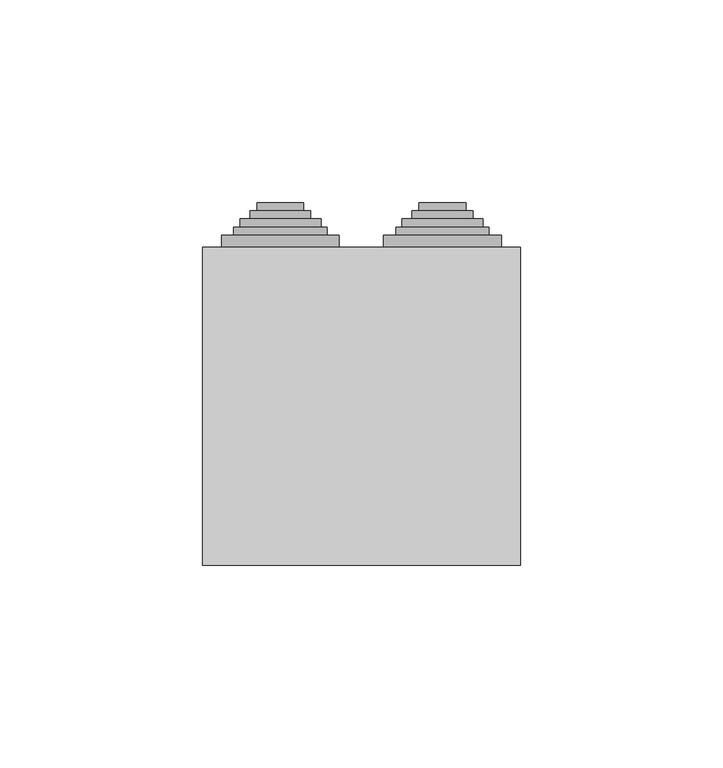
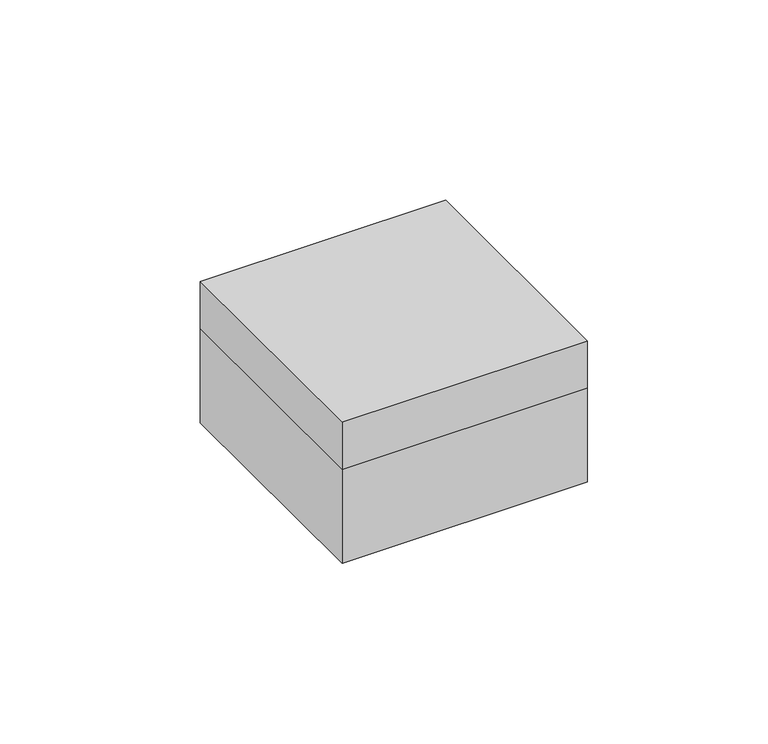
"""IFC4 building model written with IfcOpenShell, lengths in millimetres: cable carrier fitting geometry, КНС_КоробкаОтветвительнаяСКабельнымиВводами_8+2_IP55_DKC : с 8+2 кабельными вводами д.25/20 мм, IP55,100х100х50 мм."""

from ifc_helpers import new_model, si_unit, frame, origin, place, context, project, spatial, polyline, circle_curve, faceted_brep, source, transform, mapped, element, save
from ifc_brep_helpers import plane_surface, cylinder_surface, revolved_surface, advanced_brep


def cable_carrier_fitting_e5c09203(model_context):
    return source(origin(), model_context, "Body", "SolidModel", [
        advanced_brep(
        [(8.5, 37.2, 15.9), (31.5, 37.2, 15.9), (34.5, 37.2, 15.9), (5.5, 37.2, 15.9), (8.5, 39.2, 15.9), (31.5, 39.2, 15.9), (5.5, 39.2, 15.9), (34.5, 39.2, 15.9), (5.5, 42.2, 15.9), (34.5, 42.2, 15.9), (8.5, 42.2, 15.9), (31.5, 42.2, 15.9), (8.5, 44.2, 15.9), (31.5, 44.2, 15.9), (10.0, 44.2, 15.9), (30.0, 44.2, 15.9), (10.0, 46.2, 15.9), (30.0, 46.2, 15.9), (12.5, 46.2, 15.9), (27.5, 46.2, 15.9), (12.5, 48.2, 15.9), (27.5, 48.2, 15.9), (14.25, 48.2, 15.9), (25.75, 48.2, 15.9), (14.25, 50.2, 15.9), (25.75, 50.2, 15.9), (20.0, 50.2, 15.9), (8.5, 34.2, 15.9), (31.5, 34.2, 15.9), (20.0, 34.2, 15.9), (5.5, 34.9491137, 15.9), (34.5, 34.9491137, 15.9)],
        [
            (0, 1, circle_curve(frame((20.0, 37.2, 15.9), z_axis=(0.0, -1.0, 0.0), x_axis=(1.0, 0.0, 0.0)), 11.5)),
            (1, 2),
            (2, 3, circle_curve(frame((20.0, 37.2, 15.9), z_axis=(0.0, 1.0, 0.0), x_axis=(1.0, 0.0, 0.0)), 14.5)),
            (3, 0),
            (1, 0, circle_curve(frame((20.0, 37.2, 15.9), z_axis=(0.0, -1.0, 0.0), x_axis=(1.0, 0.0, 0.0)), 11.5)),
            (3, 2, circle_curve(frame((20.0, 37.2, 15.9), z_axis=(0.0, 1.0, 0.0), x_axis=(1.0, 0.0, 0.0)), 14.5)),
            (4, 5, circle_curve(frame((20.0, 39.2, 15.9), z_axis=(0.0, -1.0, 0.0), x_axis=(1.0, 0.0, 0.0)), 11.5)),
            (5, 1),
            (0, 4),
            (5, 4, circle_curve(frame((20.0, 39.2, 15.9), z_axis=(0.0, -1.0, 0.0), x_axis=(1.0, 0.0, 0.0)), 11.5)),
            (6, 7, circle_curve(frame((20.0, 39.2, 15.9), z_axis=(0.0, -1.0, 0.0), x_axis=(1.0, 0.0, 0.0)), 14.5)),
            (7, 5),
            (4, 6),
            (7, 6, circle_curve(frame((20.0, 39.2, 15.9), z_axis=(0.0, -1.0, 0.0), x_axis=(1.0, 0.0, 0.0)), 14.5)),
            (8, 9, circle_curve(frame((20.0, 42.2, 15.9), z_axis=(0.0, -1.0, 0.0), x_axis=(1.0, 0.0, 0.0)), 14.5)),
            (9, 7),
            (6, 8),
            (9, 8, circle_curve(frame((20.0, 42.2, 15.9), z_axis=(0.0, -1.0, 0.0), x_axis=(1.0, 0.0, 0.0)), 14.5)),
            (10, 11, circle_curve(frame((20.0, 42.2, 15.9), z_axis=(0.0, -1.0, 0.0), x_axis=(1.0, 0.0, 0.0)), 11.5)),
            (11, 9),
            (8, 10),
            (11, 10, circle_curve(frame((20.0, 42.2, 15.9), z_axis=(0.0, -1.0, 0.0), x_axis=(1.0, 0.0, 0.0)), 11.5)),
            (12, 13, circle_curve(frame((20.0, 44.2, 15.9), z_axis=(0.0, -1.0, 0.0), x_axis=(1.0, 0.0, 0.0)), 11.5)),
            (13, 11),
            (10, 12),
            (13, 12, circle_curve(frame((20.0, 44.2, 15.9), z_axis=(0.0, -1.0, 0.0), x_axis=(1.0, 0.0, 0.0)), 11.5)),
            (14, 15, circle_curve(frame((20.0, 44.2, 15.9), z_axis=(0.0, -1.0, 0.0), x_axis=(1.0, 0.0, 0.0)), 10.0)),
            (15, 13),
            (12, 14),
            (15, 14, circle_curve(frame((20.0, 44.2, 15.9), z_axis=(0.0, -1.0, 0.0), x_axis=(1.0, 0.0, 0.0)), 10.0)),
            (16, 17, circle_curve(frame((20.0, 46.2, 15.9), z_axis=(0.0, -1.0, 0.0), x_axis=(1.0, 0.0, 0.0)), 10.0)),
            (17, 15),
            (14, 16),
            (17, 16, circle_curve(frame((20.0, 46.2, 15.9), z_axis=(0.0, -1.0, 0.0), x_axis=(1.0, 0.0, 0.0)), 10.0)),
            (18, 19, circle_curve(frame((20.0, 46.2, 15.9), z_axis=(0.0, -1.0, 0.0), x_axis=(1.0, 0.0, 0.0)), 7.5)),
            (19, 17),
            (16, 18),
            (19, 18, circle_curve(frame((20.0, 46.2, 15.9), z_axis=(0.0, -1.0, 0.0), x_axis=(1.0, 0.0, 0.0)), 7.5)),
            (20, 21, circle_curve(frame((20.0, 48.2, 15.9), z_axis=(0.0, -1.0, 0.0), x_axis=(1.0, 0.0, 0.0)), 7.5)),
            (21, 19),
            (18, 20),
            (21, 20, circle_curve(frame((20.0, 48.2, 15.9), z_axis=(0.0, -1.0, 0.0), x_axis=(1.0, 0.0, 0.0)), 7.5)),
            (22, 23, circle_curve(frame((20.0, 48.2, 15.9), z_axis=(0.0, -1.0, 0.0), x_axis=(1.0, 0.0, 0.0)), 5.75)),
            (23, 21),
            (20, 22),
            (23, 22, circle_curve(frame((20.0, 48.2, 15.9), z_axis=(0.0, -1.0, 0.0), x_axis=(1.0, 0.0, 0.0)), 5.75)),
            (24, 25, circle_curve(frame((20.0, 50.2, 15.9), z_axis=(0.0, -1.0, 0.0), x_axis=(1.0, 0.0, 0.0)), 5.75)),
            (25, 23),
            (22, 24),
            (25, 24, circle_curve(frame((20.0, 50.2, 15.9), z_axis=(0.0, -1.0, 0.0), x_axis=(1.0, 0.0, 0.0)), 5.75)),
            (26, 25),
            (24, 26),
            (27, 28, circle_curve(frame((20.0, 34.2, 15.9), z_axis=(0.0, -1.0, 0.0), x_axis=(1.0, 0.0, 0.0)), 11.5)),
            (28, 29),
            (29, 27),
            (28, 27, circle_curve(frame((20.0, 34.2, 15.9), z_axis=(0.0, -1.0, 0.0), x_axis=(1.0, 0.0, 0.0)), 11.5)),
            (30, 31, circle_curve(frame((20.0, 34.9491137, 15.9), z_axis=(0.0, -1.0, 0.0), x_axis=(1.0, 0.0, 0.0)), 14.5)),
            (31, 28),
            (27, 30),
            (31, 30, circle_curve(frame((20.0, 34.9491137, 15.9), z_axis=(0.0, -1.0, 0.0), x_axis=(1.0, 0.0, 0.0)), 14.5)),
            (2, 31),
            (30, 3),
        ],
        [
            plane_surface(frame((20.0, 37.2, 15.9), z_axis=(0.0, 1.0, 0.0), x_axis=(1.0, 0.0, 0.0))),
            cylinder_surface(frame((20.0, -1475.8, 15.9), z_axis=(0.0, 1.0, 0.0), x_axis=(1.0, 0.0, 0.0)), 11.5),
            plane_surface(frame((20.0, 39.2, 15.9), z_axis=(0.0, -1.0, 0.0), x_axis=(1.0, 0.0, 0.0))),
            cylinder_surface(frame((20.0, -1475.8, 15.9), z_axis=(0.0, 1.0, 0.0), x_axis=(1.0, 0.0, 0.0)), 14.5),
            plane_surface(frame((20.0, 42.2, 15.9), z_axis=(0.0, 1.0, 0.0), x_axis=(1.0, 0.0, 0.0))),
            plane_surface(frame((20.0, 44.2, 15.9), z_axis=(0.0, 1.0, 0.0), x_axis=(1.0, 0.0, 0.0))),
            cylinder_surface(frame((20.0, -1475.8, 15.9), z_axis=(0.0, 1.0, 0.0), x_axis=(1.0, 0.0, 0.0)), 10.0),
            plane_surface(frame((20.0, 46.2, 15.9), z_axis=(0.0, 1.0, 0.0), x_axis=(1.0, 0.0, 0.0))),
            cylinder_surface(frame((20.0, -1475.8, 15.9), z_axis=(0.0, 1.0, 0.0), x_axis=(1.0, 0.0, 0.0)), 7.5),
            plane_surface(frame((20.0, 48.2, 15.9), z_axis=(0.0, 1.0, 0.0), x_axis=(1.0, 0.0, 0.0))),
            cylinder_surface(frame((20.0, -1475.8, 15.9), z_axis=(0.0, 1.0, 0.0), x_axis=(1.0, 0.0, 0.0)), 5.75),
            plane_surface(frame((20.0, 50.2, 15.9), z_axis=(0.0, 1.0, 0.0), x_axis=(1.0, 0.0, 0.0))),
            plane_surface(frame((20.0, 34.2, 15.9), z_axis=(0.0, -1.0, 0.0), x_axis=(1.0, 0.0, 0.0))),
            revolved_surface(polyline([(31.5, 34.2, 15.9), (34.5, 34.9491137, 15.9)]), (20.0, -1475.8, 15.9), (0.0, 1.0, 0.0)),
        ],
        [
            (0, [[1, 2, 3, 4]]),
            (0, [[5, -4, 6, -2]]),
            (1, [[7, 8, -1, 9]]),
            (1, [[10, -9, -5, -8]]),
            (2, [[11, 12, -7, 13]]),
            (2, [[14, -13, -10, -12]]),
            (3, [[15, 16, -11, 17]]),
            (3, [[18, -17, -14, -16]]),
            (4, [[19, 20, -15, 21]]),
            (4, [[22, -21, -18, -20]]),
            (1, [[23, 24, -19, 25]]),
            (1, [[26, -25, -22, -24]]),
            (5, [[27, 28, -23, 29]]),
            (5, [[30, -29, -26, -28]]),
            (6, [[31, 32, -27, 33]]),
            (6, [[34, -33, -30, -32]]),
            (7, [[35, 36, -31, 37]]),
            (7, [[38, -37, -34, -36]]),
            (8, [[39, 40, -35, 41]]),
            (8, [[42, -41, -38, -40]]),
            (9, [[43, 44, -39, 45]]),
            (9, [[46, -45, -42, -44]]),
            (10, [[47, 48, -43, 49]]),
            (10, [[50, -49, -46, -48]]),
            (11, [[51, -47, 52]]),
            (11, [[-52, -50, -51]]),
            (12, [[53, 54, 55]]),
            (12, [[56, -55, -54]]),
            (13, [[57, 58, -53, 59]]),
            (13, [[60, -59, -56, -58]]),
            (3, [[-3, 61, -57, 62]]),
            (3, [[-6, -62, -60, -61]]),
        ],
    ),
        advanced_brep(
        [(-31.5, 37.2, 15.9), (-8.5, 37.2, 15.9), (-5.5, 37.2, 15.9), (-34.5, 37.2, 15.9), (-31.5, 39.2, 15.9), (-8.5, 39.2, 15.9), (-34.5, 39.2, 15.9), (-5.5, 39.2, 15.9), (-34.5, 42.2, 15.9), (-5.5, 42.2, 15.9), (-31.5, 42.2, 15.9), (-8.5, 42.2, 15.9), (-31.5, 44.2, 15.9), (-8.5, 44.2, 15.9), (-30.0, 44.2, 15.9), (-10.0, 44.2, 15.9), (-30.0, 46.2, 15.9), (-10.0, 46.2, 15.9), (-27.5, 46.2, 15.9), (-12.5, 46.2, 15.9), (-27.5, 48.2, 15.9), (-12.5, 48.2, 15.9), (-25.75, 48.2, 15.9), (-14.25, 48.2, 15.9), (-25.75, 50.2, 15.9), (-14.25, 50.2, 15.9), (-20.0, 50.2, 15.9), (-31.5, 34.2, 15.9), (-8.5, 34.2, 15.9), (-20.0, 34.2, 15.9), (-34.5, 34.9491137, 15.9), (-5.5, 34.9491137, 15.9)],
        [
            (0, 1, circle_curve(frame((-20.0, 37.2, 15.9), z_axis=(0.0, -1.0, 0.0), x_axis=(1.0000000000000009, 0.0, 0.0)), 11.5)),
            (1, 2),
            (2, 3, circle_curve(frame((-20.0, 37.2, 15.9), z_axis=(0.0, 1.0, 0.0), x_axis=(1.0000000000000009, 0.0, 0.0)), 14.5)),
            (3, 0),
            (1, 0, circle_curve(frame((-20.0, 37.2, 15.9), z_axis=(0.0, -1.0, 0.0), x_axis=(1.0000000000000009, 0.0, 0.0)), 11.5)),
            (3, 2, circle_curve(frame((-20.0, 37.2, 15.9), z_axis=(0.0, 1.0, 0.0), x_axis=(1.0000000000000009, 0.0, 0.0)), 14.5)),
            (4, 5, circle_curve(frame((-20.0, 39.2, 15.9), z_axis=(0.0, -1.0, 0.0), x_axis=(1.0000000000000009, 0.0, 0.0)), 11.5)),
            (5, 1),
            (0, 4),
            (5, 4, circle_curve(frame((-20.0, 39.2, 15.9), z_axis=(0.0, -1.0, 0.0), x_axis=(1.0000000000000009, 0.0, 0.0)), 11.5)),
            (6, 7, circle_curve(frame((-20.0, 39.2, 15.9), z_axis=(0.0, -1.0, 0.0), x_axis=(1.0000000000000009, 0.0, 0.0)), 14.5)),
            (7, 5),
            (4, 6),
            (7, 6, circle_curve(frame((-20.0, 39.2, 15.9), z_axis=(0.0, -1.0, 0.0), x_axis=(1.0000000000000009, 0.0, 0.0)), 14.5)),
            (8, 9, circle_curve(frame((-20.0, 42.2, 15.9), z_axis=(0.0, -1.0, 0.0), x_axis=(1.0000000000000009, 0.0, 0.0)), 14.5)),
            (9, 7),
            (6, 8),
            (9, 8, circle_curve(frame((-20.0, 42.2, 15.9), z_axis=(0.0, -1.0, 0.0), x_axis=(1.0000000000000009, 0.0, 0.0)), 14.5)),
            (10, 11, circle_curve(frame((-20.0, 42.2, 15.9), z_axis=(0.0, -1.0, 0.0), x_axis=(1.0000000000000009, 0.0, 0.0)), 11.5)),
            (11, 9),
            (8, 10),
            (11, 10, circle_curve(frame((-20.0, 42.2, 15.9), z_axis=(0.0, -1.0, 0.0), x_axis=(1.0000000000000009, 0.0, 0.0)), 11.5)),
            (12, 13, circle_curve(frame((-20.0, 44.2, 15.9), z_axis=(0.0, -1.0, 0.0), x_axis=(1.0000000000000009, 0.0, 0.0)), 11.5)),
            (13, 11),
            (10, 12),
            (13, 12, circle_curve(frame((-20.0, 44.2, 15.9), z_axis=(0.0, -1.0, 0.0), x_axis=(1.0000000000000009, 0.0, 0.0)), 11.5)),
            (14, 15, circle_curve(frame((-20.0, 44.2, 15.9), z_axis=(0.0, -1.0, 0.0), x_axis=(1.0000000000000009, 0.0, 0.0)), 10.0)),
            (15, 13),
            (12, 14),
            (15, 14, circle_curve(frame((-20.0, 44.2, 15.9), z_axis=(0.0, -1.0, 0.0), x_axis=(1.0000000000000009, 0.0, 0.0)), 10.0)),
            (16, 17, circle_curve(frame((-20.0, 46.2, 15.9), z_axis=(0.0, -1.0, 0.0), x_axis=(1.0000000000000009, 0.0, 0.0)), 10.0)),
            (17, 15),
            (14, 16),
            (17, 16, circle_curve(frame((-20.0, 46.2, 15.9), z_axis=(0.0, -1.0, 0.0), x_axis=(1.0000000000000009, 0.0, 0.0)), 10.0)),
            (18, 19, circle_curve(frame((-20.0, 46.2, 15.9), z_axis=(0.0, -1.0, 0.0), x_axis=(1.0000000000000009, 0.0, 0.0)), 7.5)),
            (19, 17),
            (16, 18),
            (19, 18, circle_curve(frame((-20.0, 46.2, 15.9), z_axis=(0.0, -1.0, 0.0), x_axis=(1.0000000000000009, 0.0, 0.0)), 7.5)),
            (20, 21, circle_curve(frame((-20.0, 48.2, 15.9), z_axis=(0.0, -1.0, 0.0), x_axis=(1.0000000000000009, 0.0, 0.0)), 7.5)),
            (21, 19),
            (18, 20),
            (21, 20, circle_curve(frame((-20.0, 48.2, 15.9), z_axis=(0.0, -1.0, 0.0), x_axis=(1.0000000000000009, 0.0, 0.0)), 7.5)),
            (22, 23, circle_curve(frame((-20.0, 48.2, 15.9), z_axis=(0.0, -1.0, 0.0), x_axis=(1.0000000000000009, 0.0, 0.0)), 5.75)),
            (23, 21),
            (20, 22),
            (23, 22, circle_curve(frame((-20.0, 48.2, 15.9), z_axis=(0.0, -1.0, 0.0), x_axis=(1.0000000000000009, 0.0, 0.0)), 5.75)),
            (24, 25, circle_curve(frame((-20.0, 50.2, 15.9), z_axis=(0.0, -1.0, 0.0), x_axis=(1.0000000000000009, 0.0, 0.0)), 5.75)),
            (25, 23),
            (22, 24),
            (25, 24, circle_curve(frame((-20.0, 50.2, 15.9), z_axis=(0.0, -1.0, 0.0), x_axis=(1.0000000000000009, 0.0, 0.0)), 5.75)),
            (26, 25),
            (24, 26),
            (27, 28, circle_curve(frame((-20.0, 34.2, 15.9), z_axis=(0.0, -1.0, 0.0), x_axis=(1.0000000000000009, 0.0, 0.0)), 11.5)),
            (28, 29),
            (29, 27),
            (28, 27, circle_curve(frame((-20.0, 34.2, 15.9), z_axis=(0.0, -1.0, 0.0), x_axis=(1.0000000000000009, 0.0, 0.0)), 11.5)),
            (30, 31, circle_curve(frame((-20.0, 34.9491137, 15.9), z_axis=(0.0, -1.0, 0.0), x_axis=(1.0000000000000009, 0.0, 0.0)), 14.5)),
            (31, 28),
            (27, 30),
            (31, 30, circle_curve(frame((-20.0, 34.9491137, 15.9), z_axis=(0.0, -1.0, 0.0), x_axis=(1.0000000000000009, 0.0, 0.0)), 14.5)),
            (2, 31),
            (30, 3),
        ],
        [
            plane_surface(frame((-20.0, 37.2, 15.9), z_axis=(0.0, 1.0, 0.0), x_axis=(1.0, 0.0, 0.0))),
            cylinder_surface(frame((-20.0, -1475.8, 15.9), z_axis=(0.0, 1.0000000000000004, 0.0), x_axis=(1.0000000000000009, 0.0, 0.0)), 11.5),
            plane_surface(frame((-20.0, 39.2, 15.9), z_axis=(0.0, -1.0, 0.0), x_axis=(1.0, 0.0, 0.0))),
            cylinder_surface(frame((-20.0, -1475.8, 15.9), z_axis=(0.0, 1.0000000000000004, 0.0), x_axis=(1.0000000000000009, 0.0, 0.0)), 14.5),
            plane_surface(frame((-20.0, 42.2, 15.9), z_axis=(0.0, 1.0, 0.0), x_axis=(1.0, 0.0, 0.0))),
            plane_surface(frame((-20.0, 44.2, 15.9), z_axis=(0.0, 1.0, 0.0), x_axis=(1.0, 0.0, 0.0))),
            cylinder_surface(frame((-20.0, -1475.8, 15.9), z_axis=(0.0, 1.0000000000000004, 0.0), x_axis=(1.0000000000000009, 0.0, 0.0)), 10.0),
            plane_surface(frame((-20.0, 46.2, 15.9), z_axis=(0.0, 1.0, 0.0), x_axis=(1.0, 0.0, 0.0))),
            cylinder_surface(frame((-20.0, -1475.8, 15.9), z_axis=(0.0, 1.0000000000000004, 0.0), x_axis=(1.0000000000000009, 0.0, 0.0)), 7.5),
            plane_surface(frame((-20.0, 48.2, 15.9), z_axis=(0.0, 1.0, 0.0), x_axis=(1.0, 0.0, 0.0))),
            cylinder_surface(frame((-20.0, -1475.8, 15.9), z_axis=(0.0, 1.0000000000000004, 0.0), x_axis=(1.0000000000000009, 0.0, 0.0)), 5.75),
            plane_surface(frame((-20.0, 50.2, 15.9), z_axis=(0.0, 1.0, 0.0), x_axis=(1.0, 0.0, 0.0))),
            plane_surface(frame((-20.0, 34.2, 15.9), z_axis=(0.0, -1.0, 0.0), x_axis=(1.0, 0.0, 0.0))),
            revolved_surface(polyline([(-8.5, 34.2, 15.9), (-5.5, 34.9491137, 15.9)]), (-20.0, -1475.8, 15.9), (0.0, 1.0000000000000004, 0.0)),
        ],
        [
            (0, [[1, 2, 3, 4]]),
            (0, [[5, -4, 6, -2]]),
            (1, [[7, 8, -1, 9]]),
            (1, [[10, -9, -5, -8]]),
            (2, [[11, 12, -7, 13]]),
            (2, [[14, -13, -10, -12]]),
            (3, [[15, 16, -11, 17]]),
            (3, [[18, -17, -14, -16]]),
            (4, [[19, 20, -15, 21]]),
            (4, [[22, -21, -18, -20]]),
            (1, [[23, 24, -19, 25]]),
            (1, [[26, -25, -22, -24]]),
            (5, [[27, 28, -23, 29]]),
            (5, [[30, -29, -26, -28]]),
            (6, [[31, 32, -27, 33]]),
            (6, [[34, -33, -30, -32]]),
            (7, [[35, 36, -31, 37]]),
            (7, [[38, -37, -34, -36]]),
            (8, [[39, 40, -35, 41]]),
            (8, [[42, -41, -38, -40]]),
            (9, [[43, 44, -39, 45]]),
            (9, [[46, -45, -42, -44]]),
            (10, [[47, 48, -43, 49]]),
            (10, [[50, -49, -46, -48]]),
            (11, [[51, -47, 52]]),
            (11, [[-52, -50, -51]]),
            (12, [[53, 54, 55]]),
            (12, [[56, -55, -54]]),
            (13, [[57, 58, -53, 59]]),
            (13, [[60, -59, -56, -58]]),
            (3, [[-3, 61, -57, 62]]),
            (3, [[-6, -62, -60, -61]]),
        ],
    ),
        faceted_brep([(39.2, 39.2, 47.8), (-39.2, 39.2, 47.8), (-39.2, -39.2, 47.8), (39.2, -39.2, 47.8), (-37.2, -37.2, 45.8), (-37.2, 37.2, 45.8), (37.2, 37.2, 45.8), (37.2, -37.2, 45.8), (39.2, 39.2, 31.8), (39.2, -39.2, 31.8), (-39.2, -39.2, 31.8), (-39.2, 39.2, 31.8), (-37.2, -37.2, 31.8), (37.2, -37.2, 31.8), (37.2, 37.2, 31.8), (-37.2, 37.2, 31.8)], [[[0, 1, 2, 3]], [[4, 5, 6, 7]], [[8, 9, 10, 11], [12, 13, 14, 15]], [[1, 0, 8, 11]], [[2, 1, 11, 10]], [[3, 2, 10, 9]], [[0, 3, 9, 8]], [[12, 15, 5, 4]], [[15, 14, 6, 5]], [[14, 13, 7, 6]], [[13, 12, 4, 7]]]),
        advanced_brep(
        [(-37.2, -37.2, 2.0), (37.2, -37.2, 2.0), (37.2, 37.2, 2.0), (-37.2, 37.2, 2.0), (39.2, 39.2, 0.0), (39.2, -39.2, 0.0), (-39.2, -39.2, 0.0), (-39.2, 39.2, 0.0), (18.6, 0.0, 0.0), (38.6, 0.0, 0.0), (-38.6, 0.0, 0.0), (-18.6, 0.0, 0.0), (39.2, 39.2, 31.8), (-39.2, 39.2, 31.8), (-39.2, -39.2, 31.8), (39.2, -39.2, 31.8), (37.2, -37.2, 31.8), (-37.2, -37.2, 31.8), (-37.2, 37.2, 31.8), (37.2, 37.2, 31.8), (18.6, 0.0, 1.0), (38.6, 0.0, 1.0), (-38.6, 0.0, 1.0), (-18.6, 0.0, 1.0)],
        [
            (0, 1),
            (1, 2),
            (2, 3),
            (3, 0),
            (4, 5),
            (5, 6),
            (6, 7),
            (7, 4),
            (8, 9, circle_curve(frame((28.6, 0.0, 0.0), z_axis=(0.0, 0.0, 1.0), x_axis=(1.0, 0.0, 0.0)), 10.0)),
            (9, 8, circle_curve(frame((28.6, 0.0, 0.0), z_axis=(0.0, 0.0, 1.0), x_axis=(1.0, 0.0, 0.0)), 10.0)),
            (10, 11, circle_curve(frame((-28.6, 0.0, 0.0), z_axis=(0.0, 0.0, 1.0), x_axis=(1.0, 0.0, 0.0)), 10.0)),
            (11, 10, circle_curve(frame((-28.6, 0.0, 0.0), z_axis=(0.0, 0.0, 1.0), x_axis=(1.0, 0.0, 0.0)), 10.0)),
            (12, 13),
            (13, 14),
            (14, 15),
            (15, 12),
            (16, 17),
            (17, 18),
            (18, 19),
            (19, 16),
            (12, 4),
            (7, 13),
            (6, 14),
            (5, 15),
            (16, 1),
            (0, 17),
            (3, 18),
            (2, 19),
            (20, 21, circle_curve(frame((28.6, 0.0, 1.0), z_axis=(0.0, 0.0, -1.0), x_axis=(1.0, 0.0, 0.0)), 10.0)),
            (21, 20, circle_curve(frame((28.6, 0.0, 1.0), z_axis=(0.0, 0.0, -1.0), x_axis=(1.0, 0.0, 0.0)), 10.0)),
            (22, 23, circle_curve(frame((-28.6, 0.0, 1.0), z_axis=(0.0, 0.0, -1.0), x_axis=(1.0, 0.0, 0.0)), 10.0)),
            (23, 22, circle_curve(frame((-28.6, 0.0, 1.0), z_axis=(0.0, 0.0, -1.0), x_axis=(1.0, 0.0, 0.0)), 10.0)),
            (21, 9),
            (8, 20),
            (23, 11),
            (10, 22),
        ],
        [
            plane_surface(frame((-37.2, 37.2, 2.0), z_axis=(0.0, 0.0, 1.0), x_axis=(-1.0, 0.0, 0.0))),
            plane_surface(frame((-37.2, 37.2, 0.0), z_axis=(0.0, 0.0, -1.0), x_axis=(1.0, 0.0, 0.0))),
            plane_surface(frame((-39.2, 39.2, 31.8), z_axis=(0.0, 0.0, 1.0), x_axis=(-1.0, 0.0, 0.0))),
            plane_surface(frame((39.2, 39.2, 31.8), z_axis=(0.0, 1.0, 0.0), x_axis=(0.0, 0.0, -1.0))),
            plane_surface(frame((-39.2, 39.2, 31.8), z_axis=(-1.0, 0.0, 0.0), x_axis=(0.0, 0.0, -1.0))),
            plane_surface(frame((-39.2, -39.2, 31.8), z_axis=(0.0, -1.0, 0.0), x_axis=(0.0, 0.0, -1.0))),
            plane_surface(frame((39.2, -39.2, 31.8), z_axis=(1.0, 0.0, 0.0), x_axis=(0.0, 0.0, -1.0))),
            plane_surface(frame((37.2, -37.2, 31.8), z_axis=(0.0, 1.0, 0.0), x_axis=(0.0, 0.0, -1.0))),
            plane_surface(frame((-37.2, -37.2, 31.8), z_axis=(1.0, 0.0, 0.0), x_axis=(0.0, 0.0, -1.0))),
            plane_surface(frame((-37.2, 37.2, 31.8), z_axis=(0.0, -1.0, 0.0), x_axis=(0.0, 0.0, -1.0))),
            plane_surface(frame((37.2, 37.2, 31.8), z_axis=(-1.0, 0.0, 0.0), x_axis=(0.0, 0.0, -1.0))),
            plane_surface(frame((38.6, 0.0, 1.0), z_axis=(0.0, 0.0, -1.0), x_axis=(0.0, 1.0, 0.0))),
            revolved_surface(polyline([(38.6, 0.0, 1.0), (38.6, 0.0, 0.0)]), (28.6, 0.0, 0.0), (0.0, 0.0, 1.0)),
            revolved_surface(polyline([(-18.6, 0.0, 1.0), (-18.6, 0.0, 0.0)]), (-28.6, 0.0, 0.0), (0.0, 0.0, 1.0)),
        ],
        [
            (0, [[1, 2, 3, 4]]),
            (1, [[5, 6, 7, 8], [9, 10], [11, 12]]),
            (2, [[13, 14, 15, 16], [17, 18, 19, 20]]),
            (3, [[-13, 21, -8, 22]]),
            (4, [[-14, -22, -7, 23]]),
            (5, [[-15, -23, -6, 24]]),
            (6, [[-16, -24, -5, -21]]),
            (7, [[-17, 25, -1, 26]]),
            (8, [[-18, -26, -4, 27]]),
            (9, [[-19, -27, -3, 28]]),
            (10, [[-20, -28, -2, -25]]),
            (11, [[29, 30]]),
            (11, [[31, 32]]),
            (12, [[-30, 33, -9, 34]]),
            (12, [[-29, -34, -10, -33]]),
            (13, [[-32, 35, -11, 36]]),
            (13, [[-31, -36, -12, -35]]),
        ],
    ),
    ])


if __name__ == "__main__":
    model = new_model("IFC4")
    model_context = context("Model", 3, world=origin())
    ifc_project = project(units=[si_unit("LENGTHUNIT", "METRE", prefix="MILLI")], contexts=[model_context])
    site = spatial("IfcSite", under=ifc_project)
    building = spatial("IfcBuilding", under=site)
    placement = place(None, origin())
    cable_carrier_fitting_shape = cable_carrier_fitting_e5c09203(model_context)
    element("IfcCableCarrierFitting", 1, ObjectType="КНС_КоробкаОтветвительнаяСКабельнымиВводами_8+2_IP55_DKC : с 8+2 кабельными вводами д.25/20 мм, IP55,100х100х50 мм", at=placement, inside=building, context=model_context, shape_type="MappedRepresentation", body=[
        mapped(cable_carrier_fitting_shape, transform((0.0, 0.0, 0.0), x_axis=(1.0, 0.0, 0.0), y_axis=(0.0, 1.0, 0.0), z_axis=(0.0, 0.0, 1.0))),
    ])
    save(model, "model.ifc")
